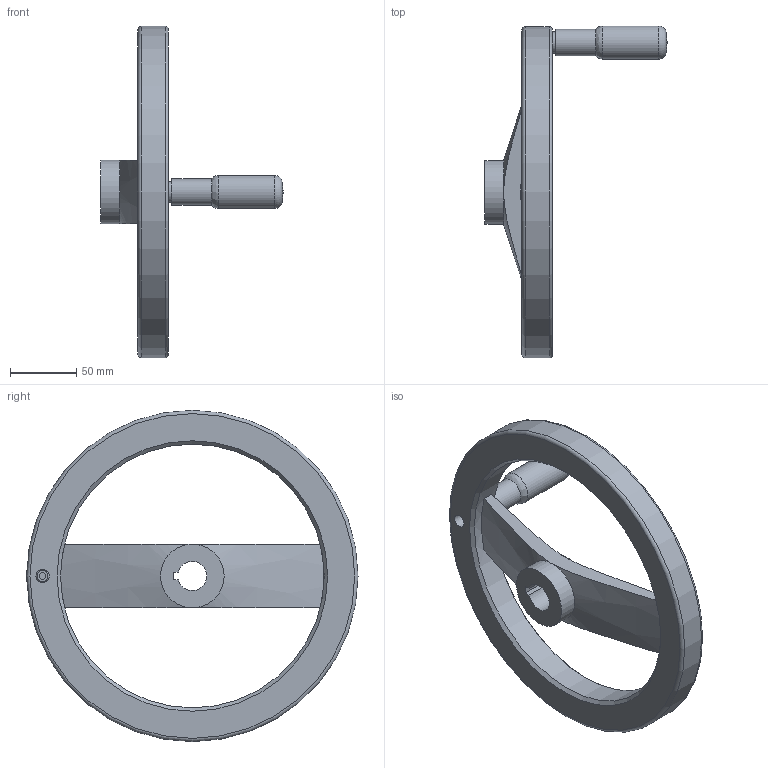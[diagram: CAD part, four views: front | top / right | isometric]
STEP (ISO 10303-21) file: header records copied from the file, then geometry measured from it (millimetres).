
FILE_DESCRIPTION( ( 'STEP AP203' ), '1' );
FILE_NAME( 'C:/Temp/Ganter_Step_05_03_2020/data/1_3/gn_324/gn_324_k/gn_324_k_d/Handwheel, matt black GN 324-250-K22-R.stp', '2020-03-05T10:33:04', ( 'License CC BY-ND 4.0' ), ( 'CADENAS' ), ' ', 'PARTsolutions', ' ' );
FILE_SCHEMA( ( 'CONFIG_CONTROL_DESIGN' ) );
Length unit declared in the file: millimetre
Products named in the file (1): _Handwheel, matt black GN 324-250-K22-R
Bounding box: 137.5 x 250.5 x 250 mm (x, y, z)
Volume: 564378.7 mm3; surface area: 98960.2 mm2
Topology: 1 solids, 2 shells, 43 faces, 97 edges, 60 vertices
Faces by surface type: plane 19, cylinder 11, cone 8, torus 3, sphere 1, bspline 1
Full cylindrical faces by diameter (mm): 8.14 x1, 10 x2, 16 x1, 20 x1, 25 x1, 48 x2, 199 x1, 250 x1
Entity records: 1287 total; most frequent: CARTESIAN_POINT 358, DIRECTION 186, ORIENTED_EDGE 148, AXIS2_PLACEMENT_3D 77, EDGE_CURVE 74, EDGE_LOOP 72, FACE_OUTER_BOUND 57, VERTEX_POINT 57
